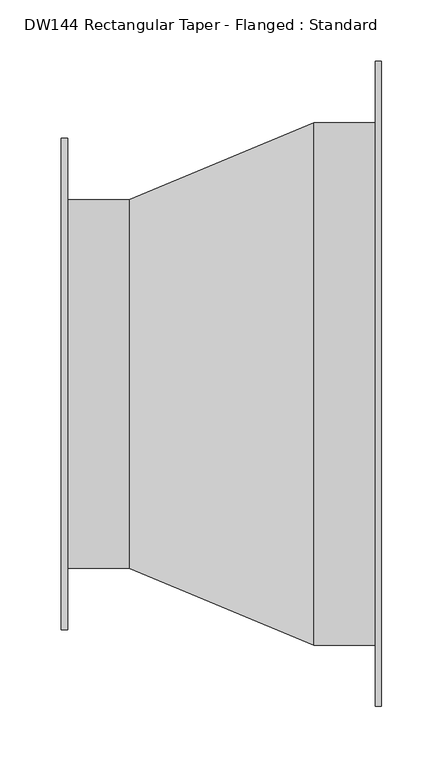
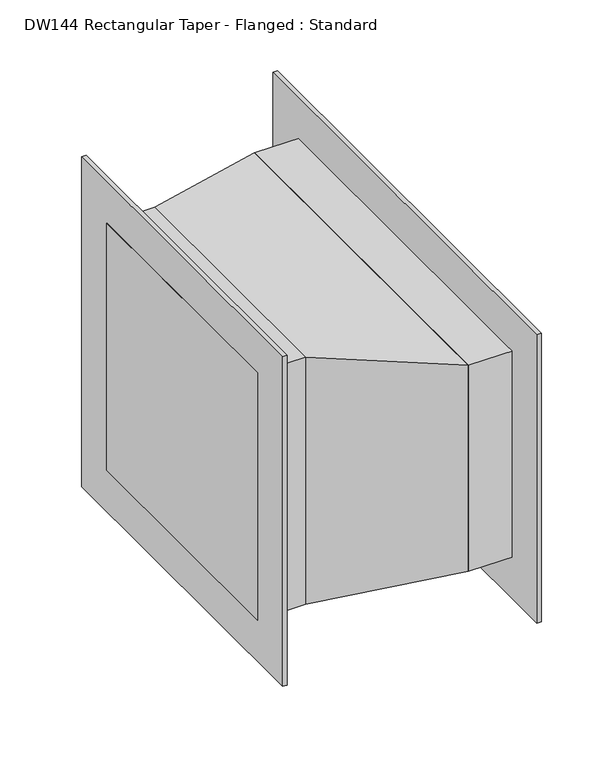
"""IFC4 building model written with IfcOpenShell, lengths in millimetres: duct fitting geometry, DW144 Rectangular Taper - Flanged : Standard."""

from ifc_helpers import new_model, si_unit, frame, origin, place, context, project, spatial, polyline, outline, extrude, faceted_brep, source, transform, mapped, element, save


def dw144_rectangular_taper_flanged_standard_dfbd41f8(model_context):
    return source(origin(), model_context, "Body", "SolidModel", [
        extrude(outline(polyline([(260.8883476, 212.5), (260.8883476, -212.5), (205.8883476, -212.5), (205.8883476, 212.5), (260.8883476, 212.5)])), frame((0.0, 0.0, -125.0), z_axis=(0.0, 0.0, 1.0), x_axis=(1.0, 0.0, 0.0)), (0.0, 0.0, 1.0), 250.0),
        extrude(outline(polyline([(55.0, 150.0), (55.0, -150.0), (0.0, -150.0), (0.0, 150.0), (55.0, 150.0)])), frame((0.0, 0.0, -150.0), z_axis=(0.0, 0.0, 1.0), x_axis=(1.0, 0.0, 0.0)), (0.0, 0.0, 1.0), 300.0),
        faceted_brep([(205.8883476, -212.5, 125.0), (205.8883476, -212.5, -125.0), (205.8883476, 212.5, -125.0), (205.8883476, 212.5, 125.0), (55.0, -150.0, 150.0), (55.0, 150.0, 150.0), (55.0, 150.0, -150.0), (55.0, -150.0, -150.0)], [[[0, 1, 2, 3]], [[4, 5, 6, 7]], [[4, 7, 1, 0]], [[7, 6, 2, 1]], [[6, 5, 3, 2]], [[5, 4, 0, 3]]]),
        extrude(outline(polyline([(260.8883476, 262.5), (260.8883476, -262.5), (255.8883476, -262.5), (255.8883476, 262.5), (260.8883476, 262.5)])), frame((0.0, 0.0, -175.0), z_axis=(0.0, 0.0, 1.0), x_axis=(1.0, 0.0, 0.0)), (0.0, 0.0, 1.0), 350.0),
        extrude(outline(polyline([(5.0, 200.0), (5.0, -200.0), (0.0, -200.0), (0.0, 200.0), (5.0, 200.0)])), frame((0.0, 0.0, -200.0), z_axis=(0.0, 0.0, 1.0), x_axis=(1.0, 0.0, 0.0)), (0.0, 0.0, 1.0), 400.0),
    ])


if __name__ == "__main__":
    model = new_model("IFC4")
    model_context = context("Model", 3, world=origin())
    ifc_project = project(units=[si_unit("LENGTHUNIT", "METRE", prefix="MILLI")], contexts=[model_context])
    site = spatial("IfcSite", under=ifc_project)
    building = spatial("IfcBuilding", under=site)
    placement = place(None, origin())
    dw144_rectangular_taper_flanged_standard_shape = dw144_rectangular_taper_flanged_standard_dfbd41f8(model_context)
    element("IfcDuctFitting", 1, ObjectType="DW144 Rectangular Taper - Flanged : Standard", at=placement, inside=building, context=model_context, shape_type="MappedRepresentation", body=[
        mapped(dw144_rectangular_taper_flanged_standard_shape, transform((0.0, 0.0, 0.0), x_axis=(1.0, 0.0, 0.0), y_axis=(0.0, 1.0, 0.0), z_axis=(0.0, 0.0, 1.0))),
    ])
    save(model, "model.ifc")
